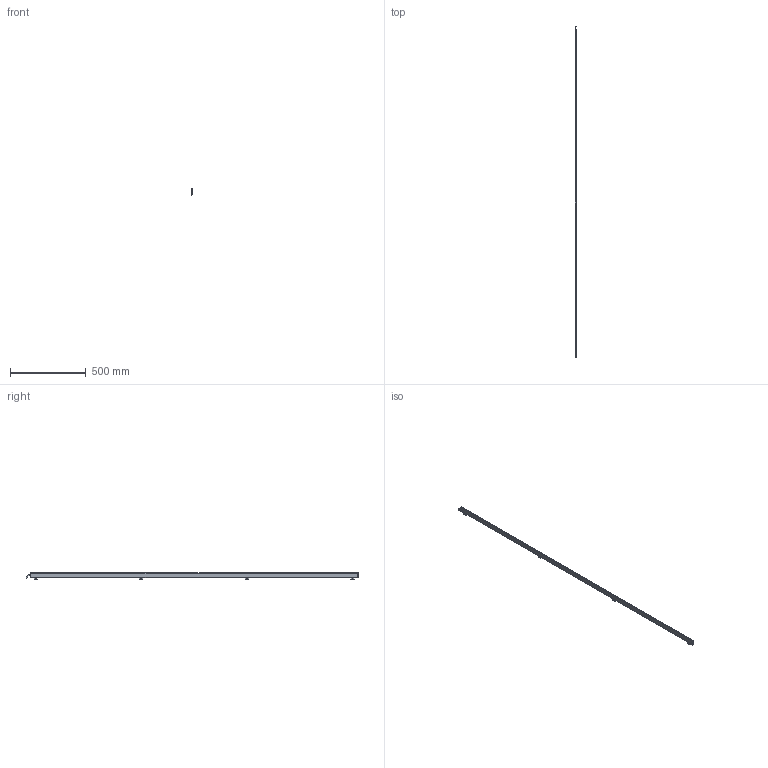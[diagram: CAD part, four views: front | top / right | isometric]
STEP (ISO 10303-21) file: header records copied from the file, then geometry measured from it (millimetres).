
FILE_DESCRIPTION (( 'STEP AP214' ), '1' );
FILE_NAME ('ILG-N-K1-2160mm.STEP', '2017-07-10T13:34:32', ( '' ), ( '' ), 'SwSTEP 2.0', 'SolidWorks 2016', '' );
FILE_SCHEMA (( 'AUTOMOTIVE_DESIGN' ));
Length unit declared in the file: millimetre
Products named in the file (1): ILG-N-K1-2160mm
Bounding box: 10.22 x 2188.25 x 42.41 mm (x, y, z)
Volume: 242744.1 mm3; surface area: 360430 mm2
Topology: 13 solids, 13 shells, 573 faces, 1449 edges, 896 vertices
Faces by surface type: plane 329, cylinder 170, cone 64, torus 10
Entity records: 23504 total; most frequent: CARTESIAN_POINT 3067, DIRECTION 2993, ORIENTED_EDGE 2882, EDGE_CURVE 1441, AXIS2_PLACEMENT_3D 1030, LINE 933, VECTOR 933, VERTEX_POINT 896
